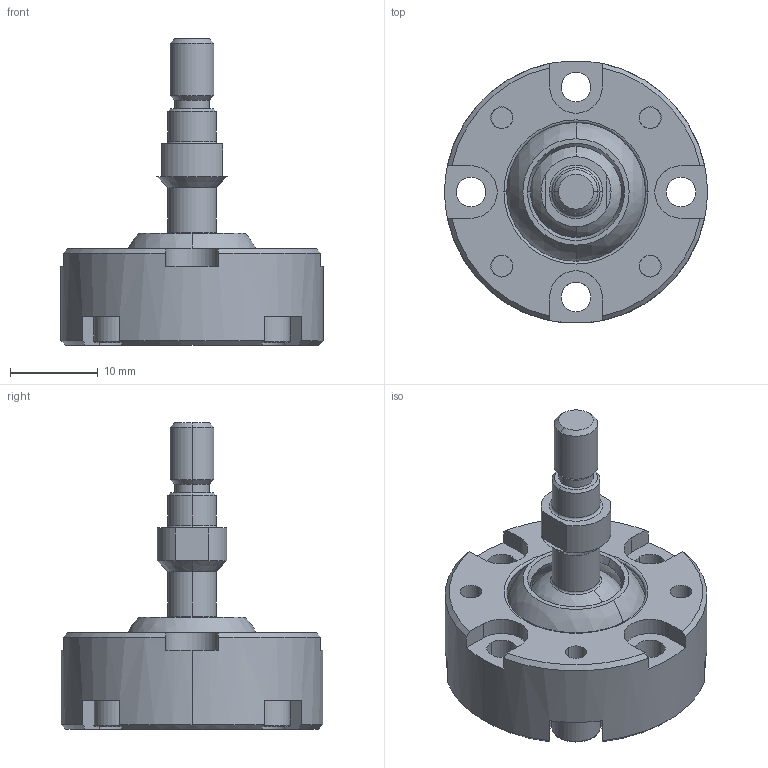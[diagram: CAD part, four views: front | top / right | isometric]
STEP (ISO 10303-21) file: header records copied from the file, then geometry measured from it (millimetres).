
FILE_DESCRIPTION (( 'STEP AP203' ), '1' );
FILE_NAME ('SRJ008CP.STEP', '2023-03-30T08:37:36', ( '' ), ( '' ), 'SwSTEP 2.0', 'SolidWorks 2023', '' );
FILE_SCHEMA (( 'CONFIG_CONTROL_DESIGN' ));
Length unit declared in the file: millimetre
Products named in the file (1): SRJ008CP
Bounding box: 30 x 29.93 x 35 mm (x, y, z)
Volume: 7063.1 mm3; surface area: 6212.1 mm2
Topology: 7 solids, 7 shells, 230 faces, 562 edges, 344 vertices
Faces by surface type: plane 99, cylinder 62, cone 37, torus 24, sphere 8
Entity records: 6692 total; most frequent: DIRECTION 1249, CARTESIAN_POINT 1145, ORIENTED_EDGE 1068, EDGE_CURVE 534, AXIS2_PLACEMENT_3D 500, VERTEX_POINT 332, CIRCLE 269, EDGE_LOOP 264
